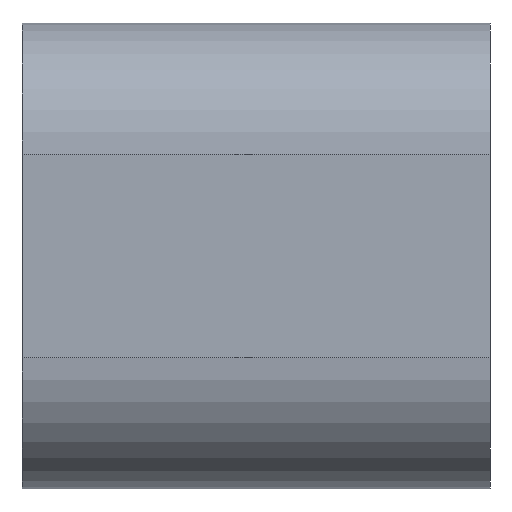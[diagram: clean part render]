
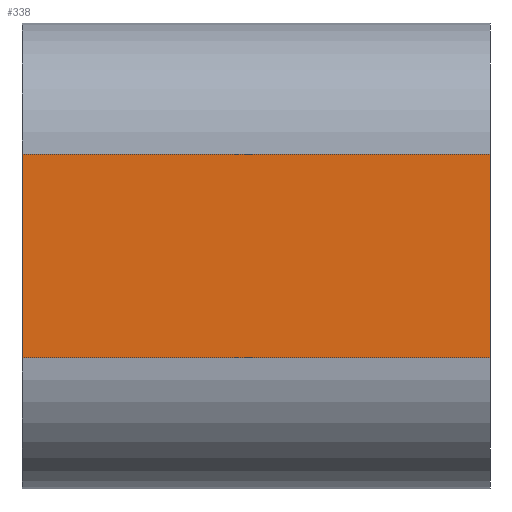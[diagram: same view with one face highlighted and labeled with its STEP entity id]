
A CAD part, left-side view. The second image highlights one B-rep face of the part: STEP entity #338.
In plain terms, the highlighted planar face has unit normal (-1, 0, 0).
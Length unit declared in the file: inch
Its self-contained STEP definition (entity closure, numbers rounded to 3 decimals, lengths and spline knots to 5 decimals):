
#50=FACE_OUTER_BOUND('',#68,.T.);
#68=EDGE_LOOP('',(#259,#260,#261,#262));
#96=LINE('',#554,#128);
#97=LINE('',#557,#129);
#98=LINE('',#559,#130);
#99=LINE('',#560,#131);
#128=VECTOR('',#452,0.3937);
#129=VECTOR('',#455,0.3937);
#130=VECTOR('',#456,0.3937);
#131=VECTOR('',#457,0.3937);
#159=VERTEX_POINT('',#547);
#162=VERTEX_POINT('',#552);
#163=VERTEX_POINT('',#556);
#164=VERTEX_POINT('',#558);
#202=EDGE_CURVE('',#162,#159,#96,.T.);
#203=EDGE_CURVE('',#162,#163,#97,.T.);
#204=EDGE_CURVE('',#164,#163,#98,.T.);
#205=EDGE_CURVE('',#159,#164,#99,.T.);
#259=ORIENTED_EDGE('',*,*,#202,.F.);
#260=ORIENTED_EDGE('',*,*,#203,.T.);
#261=ORIENTED_EDGE('',*,*,#204,.F.);
#262=ORIENTED_EDGE('',*,*,#205,.F.);
#323=PLANE('',#380);
#338=ADVANCED_FACE('',(#50),#323,.T.);
#380=AXIS2_PLACEMENT_3D('',#555,#453,#454);
#452=DIRECTION('',(0.,1.,0.));
#453=DIRECTION('center_axis',(-1.,0.,0.));
#454=DIRECTION('ref_axis',(0.,0.,1.));
#455=DIRECTION('',(0.,0.,1.));
#456=DIRECTION('',(0.,-1.,0.));
#457=DIRECTION('',(0.,0.,1.));
#547=CARTESIAN_POINT('',(-1.,2.01,-0.436));
#552=CARTESIAN_POINT('',(-1.,0.,-0.436));
#554=CARTESIAN_POINT('',(-1.,0.,-0.436));
#555=CARTESIAN_POINT('Origin',(-1.,0.,-1.));
#556=CARTESIAN_POINT('',(-1.,0.,0.436));
#557=CARTESIAN_POINT('',(-1.,0.,-1.));
#558=CARTESIAN_POINT('',(-1.,2.01,0.436));
#559=CARTESIAN_POINT('',(-1.,0.,0.436));
#560=CARTESIAN_POINT('',(-1.,2.01,-1.));
